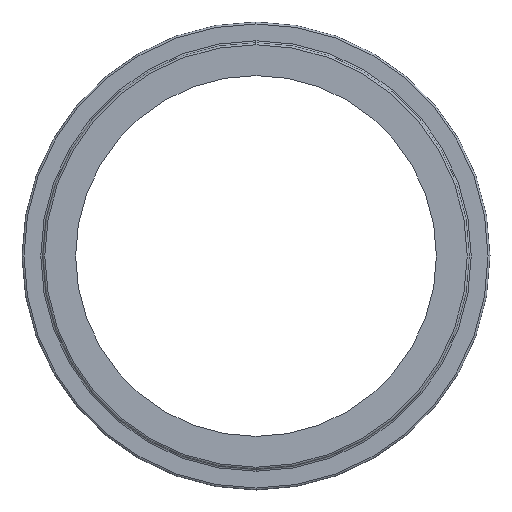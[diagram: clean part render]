
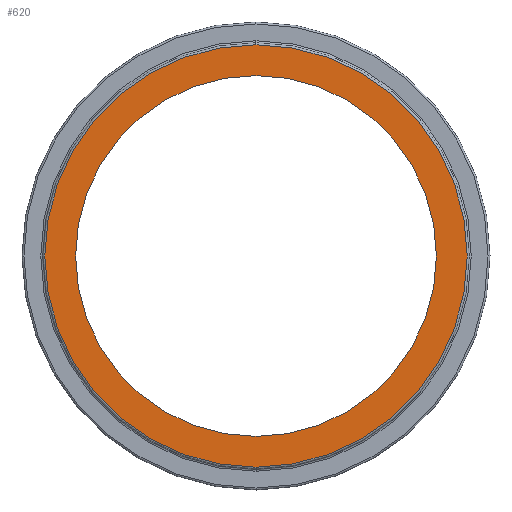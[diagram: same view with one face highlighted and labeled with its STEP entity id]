
A CAD part, left-side view. The second image highlights one B-rep face of the part: STEP entity #620.
In plain terms, the highlighted planar face has unit normal (-1, 0, 0).
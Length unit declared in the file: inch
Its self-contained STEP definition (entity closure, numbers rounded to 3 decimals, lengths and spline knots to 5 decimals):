
#6 = ORIENTED_EDGE ( 'NONE', *, *, #480, .F. ) ;
#17 = AXIS2_PLACEMENT_3D ( 'NONE', #397, #445, #601 ) ;
#56 = VERTEX_POINT ( 'NONE', #178 ) ;
#58 = EDGE_LOOP ( 'NONE', ( #442, #470 ) ) ;
#87 = CARTESIAN_POINT ( 'NONE',  ( -1.01, 0., 3.3845 ) ) ;
#120 = EDGE_CURVE ( 'NONE', #168, #569, #208, .T. ) ;
#148 = CARTESIAN_POINT ( 'NONE',  ( -1.01, 0., 0. ) ) ;
#168 = VERTEX_POINT ( 'NONE', #451 ) ;
#178 = CARTESIAN_POINT ( 'NONE',  ( -1.01, 0., -3.3845 ) ) ;
#203 = DIRECTION ( 'NONE',  ( 1., 0., 0. ) ) ;
#208 = CIRCLE ( 'NONE', #17, 2.891 ) ;
#211 = ORIENTED_EDGE ( 'NONE', *, *, #609, .F. ) ;
#226 = AXIS2_PLACEMENT_3D ( 'NONE', #322, #415, #622 ) ;
#227 = CARTESIAN_POINT ( 'NONE',  ( -1.01, 0., 2.891 ) ) ;
#234 = CIRCLE ( 'NONE', #506, 3.3845 ) ;
#289 = EDGE_CURVE ( 'NONE', #569, #168, #528, .T. ) ;
#322 = CARTESIAN_POINT ( 'NONE',  ( -1.01, 0., 0. ) ) ;
#323 = CIRCLE ( 'NONE', #226, 3.3845 ) ;
#334 = DIRECTION ( 'NONE',  ( 1., 0., 0. ) ) ;
#383 = DIRECTION ( 'NONE',  ( 0., 0., -1. ) ) ;
#386 = FACE_OUTER_BOUND ( 'NONE', #414, .T. ) ;
#397 = CARTESIAN_POINT ( 'NONE',  ( -1.01, 0., 0. ) ) ;
#406 = AXIS2_PLACEMENT_3D ( 'NONE', #148, #203, #453 ) ;
#414 = EDGE_LOOP ( 'NONE', ( #6, #211 ) ) ;
#415 = DIRECTION ( 'NONE',  ( 1., 0., 0. ) ) ;
#433 = PLANE ( 'NONE',  #540 ) ;
#434 = DIRECTION ( 'NONE',  ( 0., 0., 1. ) ) ;
#436 = CARTESIAN_POINT ( 'NONE',  ( -1.01, 0., 0. ) ) ;
#442 = ORIENTED_EDGE ( 'NONE', *, *, #120, .T. ) ;
#445 = DIRECTION ( 'NONE',  ( 1., 0., 0. ) ) ;
#451 = CARTESIAN_POINT ( 'NONE',  ( -1.01, 0., -2.891 ) ) ;
#453 = DIRECTION ( 'NONE',  ( 0., 0., -1. ) ) ;
#470 = ORIENTED_EDGE ( 'NONE', *, *, #289, .T. ) ;
#480 = EDGE_CURVE ( 'NONE', #56, #621, #323, .T. ) ;
#482 = FACE_BOUND ( 'NONE', #58, .T. ) ;
#506 = AXIS2_PLACEMENT_3D ( 'NONE', #436, #334, #383 ) ;
#528 = CIRCLE ( 'NONE', #406, 2.891 ) ;
#540 = AXIS2_PLACEMENT_3D ( 'NONE', #640, #588, #434 ) ;
#569 = VERTEX_POINT ( 'NONE', #227 ) ;
#588 = DIRECTION ( 'NONE',  ( -1., 0., 0. ) ) ;
#601 = DIRECTION ( 'NONE',  ( 0., 0., -1. ) ) ;
#609 = EDGE_CURVE ( 'NONE', #621, #56, #234, .T. ) ;
#620 = ADVANCED_FACE ( 'NONE', ( #482, #386 ), #433, .T. ) ;
#621 = VERTEX_POINT ( 'NONE', #87 ) ;
#622 = DIRECTION ( 'NONE',  ( 0., 0., -1. ) ) ;
#640 = CARTESIAN_POINT ( 'NONE',  ( -1.01, 2.891, 0. ) ) ;
